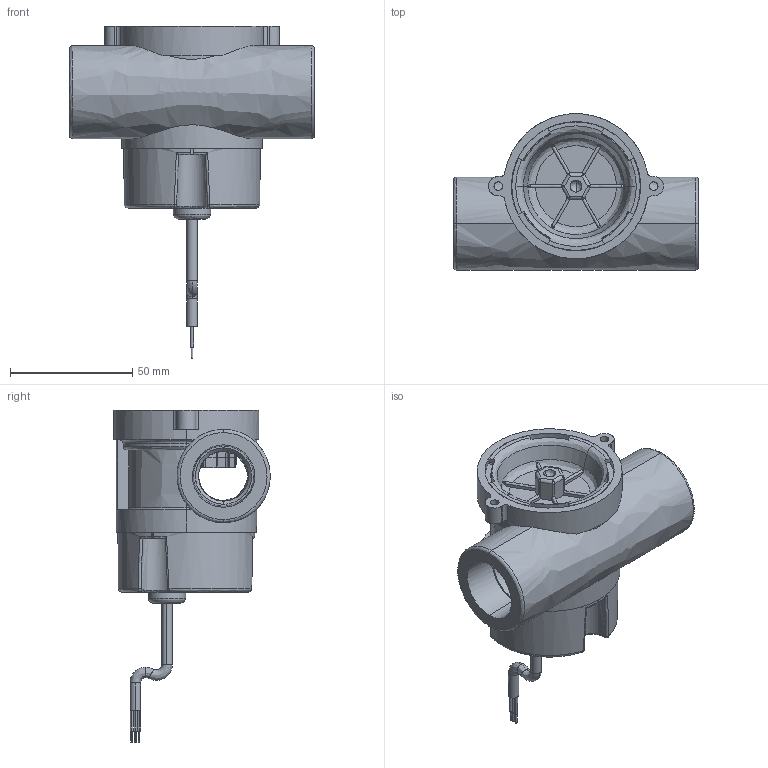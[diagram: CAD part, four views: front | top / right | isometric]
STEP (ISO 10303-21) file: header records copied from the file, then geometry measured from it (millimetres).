
FILE_DESCRIPTION (( 'STEP AP214' ), '1' );
FILE_NAME ('Sen-205F.STEP', '2020-12-10T20:56:02', ( '' ), ( '' ), 'SwSTEP 2.0', 'SolidWorks 2020', '' );
FILE_SCHEMA (( 'AUTOMOTIVE_DESIGN' ));
Length unit declared in the file: millimetre
Products named in the file (9): DEFAULT-5.igs; Sen-205F; DEFAULT-3.igs; DEFAULT.igs; DEFAULT-2.igs; DEFAULT-0.igs; Sen-205F.igs; DEFAULT-1.igs; DEFAULT-4.igs
Assembly tree (8 placements, depth 3):
  Sen-205F
    Sen-205F.igs
      DEFAULT.igs
      DEFAULT-0.igs
      DEFAULT-1.igs
      DEFAULT-2.igs
      DEFAULT-3.igs
      DEFAULT-4.igs
      DEFAULT-5.igs
Bounding box: 100.08 x 63.88 x 135.7 mm (x, y, z)
Volume: 150300.8 mm3; surface area: 57064.9 mm2
Topology: 7 solids, 7 shells, 750 faces, 1909 edges, 1187 vertices
Faces by surface type: bspline 479, plane 271
Entity records: 30107 total; most frequent: CARTESIAN_POINT 18046, ORIENTED_EDGE 3778, EDGE_CURVE 1889, B_SPLINE_CURVE_WITH_KNOTS 1259, VERTEX_POINT 1185, EDGE_LOOP 794, ADVANCED_FACE 750, FACE_OUTER_BOUND 750
